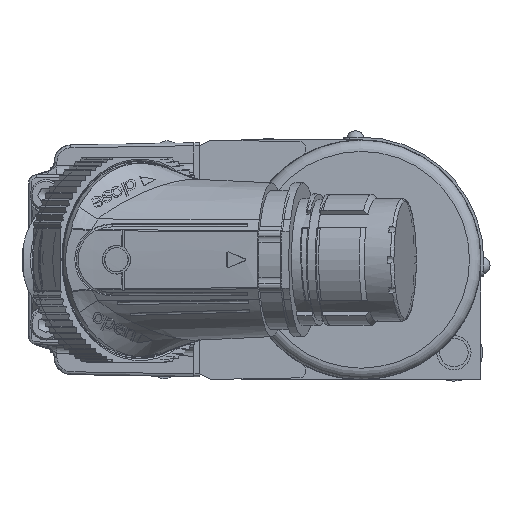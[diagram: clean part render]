
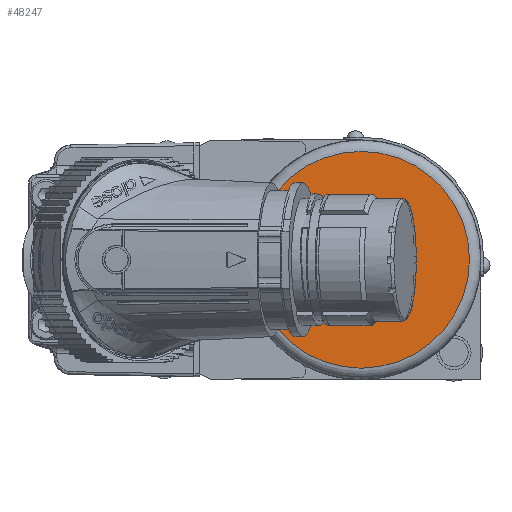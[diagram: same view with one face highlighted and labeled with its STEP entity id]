
A CAD part, left-side view. The second image highlights one B-rep face of the part: STEP entity #48247.
In plain terms, the highlighted planar face has unit normal (-1, 0, 0).
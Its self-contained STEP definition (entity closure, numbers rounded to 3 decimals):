
#9263 = FACE_OUTER_BOUND ( 'NONE', #101988, .T. ) ;
#12637 = CARTESIAN_POINT ( 'NONE',  ( -279., 0., 19. ) ) ;
#12931 = CARTESIAN_POINT ( 'NONE',  ( -279., 0., 0. ) ) ;
#20814 = DIRECTION ( 'NONE',  ( 0., 0., 1. ) ) ;
#21681 = ORIENTED_EDGE ( 'NONE', *, *, #94919, .T. ) ;
#27195 = VERTEX_POINT ( 'NONE', #12637 ) ;
#37059 = CARTESIAN_POINT ( 'NONE',  ( -279., 0., 0. ) ) ;
#40971 = AXIS2_PLACEMENT_3D ( 'NONE', #12931, #67893, #20814 ) ;
#44171 = PLANE ( 'NONE',  #40971 ) ;
#44961 = DIRECTION ( 'NONE',  ( 0., 0., 1. ) ) ;
#48247 = ADVANCED_FACE ( 'NONE', ( #9263 ), #44171, .T. ) ;
#49582 = CIRCLE ( 'NONE', #66081, 19. ) ;
#66081 = AXIS2_PLACEMENT_3D ( 'NONE', #37059, #92335, #44961 ) ;
#67893 = DIRECTION ( 'NONE',  ( -1., 0., 0. ) ) ;
#92335 = DIRECTION ( 'NONE',  ( -1., 0., 0. ) ) ;
#94919 = EDGE_CURVE ( 'NONE', #27195, #27195, #49582, .T. ) ;
#101988 = EDGE_LOOP ( 'NONE', ( #21681 ) ) ;
